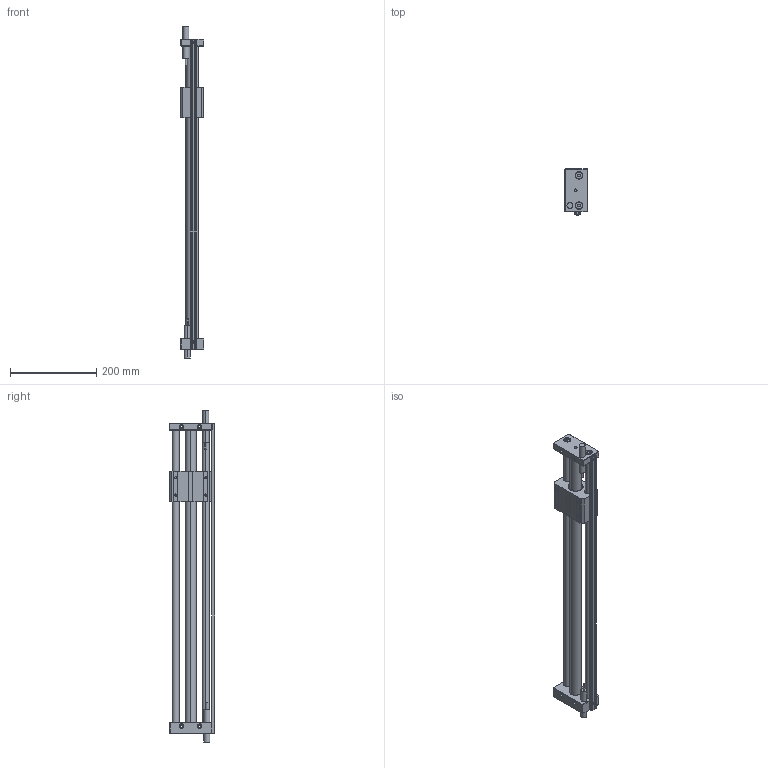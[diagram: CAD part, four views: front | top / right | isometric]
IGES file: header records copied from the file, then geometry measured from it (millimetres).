
Start section: SolidWorks IGES file using analytic representation for surfaces
Global section: file name: D:\Documents de SGA\Pieces 2D et 3D\GRU\iges\GRU 25.600.IGS; native system: SolidWorks 2010; preprocessor: SolidWorks 2010; author: SGA; date: 111216.112323; units: millimetre
Bounding box: 54 x 106.08 x 771.42 mm (x, y, z)
Surface area: 268999.1 mm2 (no closed solid volume)
Topology: 0 solids, 0 shells, 294 faces, 4396 edges, 4396 vertices
Faces by surface type: revolution 158, bspline 136
